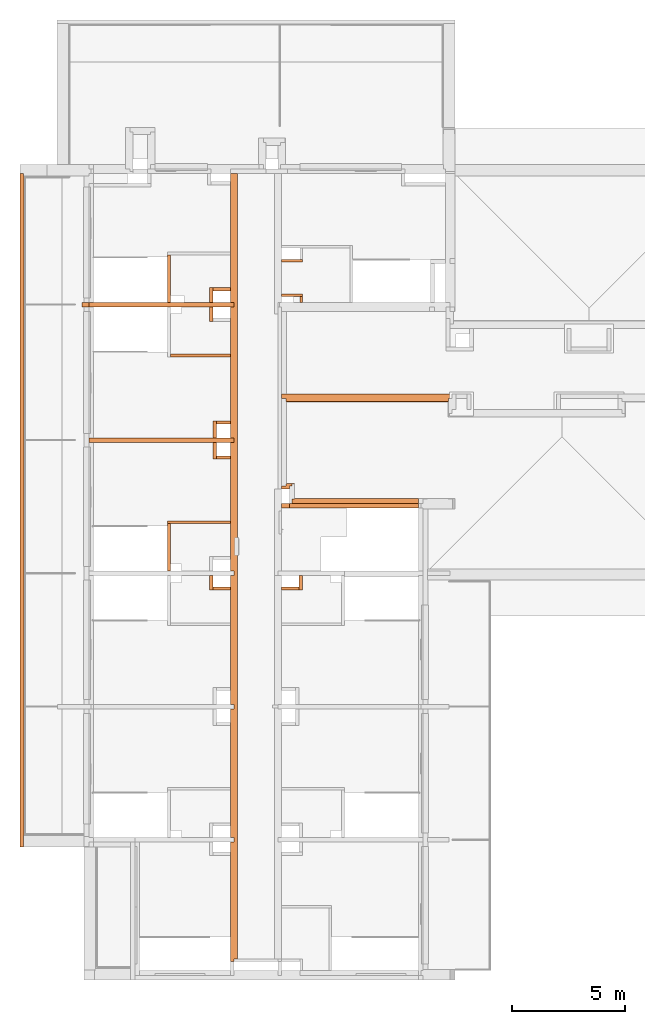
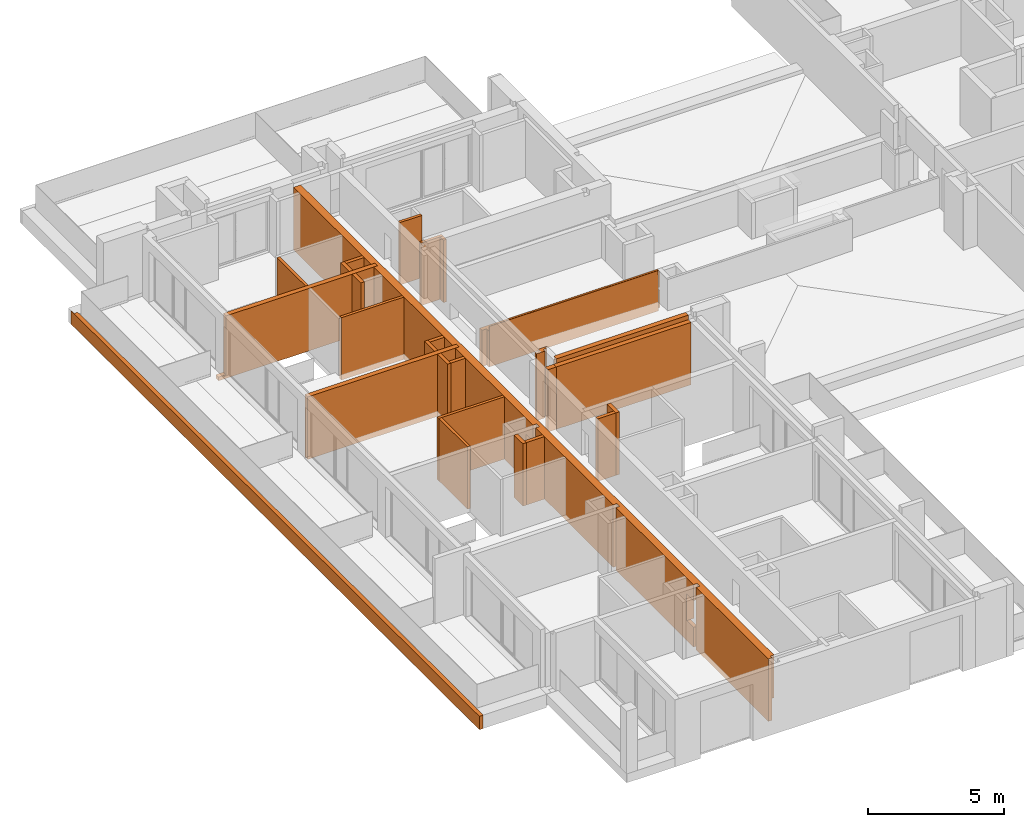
# One storey, part 17 of 30: 26 proxies, 3 openings.
"""IFC2X3 building model written with IfcOpenShell, lengths in millimetres."""

from ifc_helpers import new_model, entity, si_unit, converted_unit, derived_unit, money_unit, direction, frame, origin_with_axes, origin_2d_with_axis, place, context, subcontext, project, spatial, rectangle, extrude, faceted_brep, material, material_list, type_object, element, save


model = new_model("IFC2X3")

# Units and contexts
model_context = context("Model", 3, precision=0.01, world=origin_with_axes(), true_north=direction((0.34421633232, 0.938890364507)))
body_context = subcontext(model_context, "Body", "Model", "MODEL_VIEW")
ifc_project = project(units=[si_unit("LENGTHUNIT", "METRE", prefix="MILLI"), si_unit("AREAUNIT", "SQUARE_METRE"), si_unit("VOLUMEUNIT", "CUBIC_METRE"), converted_unit("PLANEANGLEUNIT", "DEGREE", entity("IfcPlaneAngleMeasure", 0.0174532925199), si_unit("PLANEANGLEUNIT", "RADIAN"), dimensions=[0, 0, 0, 0, 0, 0, 0]), si_unit("SOLIDANGLEUNIT", "STERADIAN"), money_unit("USD"), converted_unit("TIMEUNIT", "Year", entity("IfcTimeMeasure", 31556926.0), si_unit("TIMEUNIT", "SECOND"), dimensions=[0, 0, 1, 0, 0, 0, 0]), si_unit("MASSUNIT", "GRAM", prefix="KILO"), si_unit("THERMODYNAMICTEMPERATUREUNIT", "DEGREE_CELSIUS"), si_unit("LUMINOUSINTENSITYUNIT", "LUMEN"), si_unit("ENERGYUNIT", "JOULE", prefix="MEGA"), derived_unit("THERMALCONDUCTANCEUNIT", [(si_unit("POWERUNIT", "WATT"), 1), (si_unit("LENGTHUNIT", "METRE"), -1), (si_unit("THERMODYNAMICTEMPERATUREUNIT", "KELVIN"), -1)]), derived_unit("SPECIFICHEATCAPACITYUNIT", [(si_unit("ENERGYUNIT", "JOULE"), 1), (si_unit("MASSUNIT", "GRAM", prefix="KILO"), -1), (si_unit("THERMODYNAMICTEMPERATUREUNIT", "KELVIN"), -1)]), derived_unit("MASSDENSITYUNIT", [(si_unit("MASSUNIT", "GRAM", prefix="KILO"), 1), (si_unit("VOLUMEUNIT", "CUBIC_METRE"), -1)])], contexts=[model_context])

# Site, building, storey
site_placement = place(None, origin_with_axes())
site = spatial("IfcSite", under=ifc_project, at=site_placement, Name="USTRONIE MORSKIE", CompositionType="ELEMENT")
building_placement = place(site_placement, origin_with_axes())
building = spatial("IfcBuilding", under=site, at=building_placement, Name="Budynek", CompositionType="ELEMENT")
storey_placement = place(building_placement, frame((0.0, 0.0, 16000.0), z_axis=(0.0, 0.0, 1.0), x_axis=(1.0, 0.0, 0.0)))
storey = spatial("IfcBuildingStorey", under=building, at=storey_placement, Name="ANTRESOLA - KOND. TECHNICZNA", CompositionType="ELEMENT", Elevation=16000.0)

# Proxies
ifc_material_1 = material(Name="Bloczki silikatowe")
building_element_proxy_type_1 = type_object("IfcBuildingElementProxyType", Name="Bloczki silikatowe 120", PredefinedType="NOTDEFINED")
proxy_1_placement = place(storey_placement, frame((354717.920919, 736541.179047, -159.999998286), z_axis=(0.0, 0.0, 1.0), x_axis=(1.0, 0.0, 0.0)))
element("IfcBuildingElementProxy", 1, at=proxy_1_placement, inside=storey, type_object=building_element_proxy_type_1, material=ifc_material_1, Name="SW-04", context=body_context, shape_type="Brep", body=[
    faceted_brep([(2720.0, 59.9999999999, 0.0), (2720.0, -59.9999999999, 0.0), (60.0, -59.9999999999, 0.0), (60.0, 59.9999999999, 0.0), (2720.0, 59.9999999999, 2800.0), (2720.0, -59.9999999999, 2800.0), (60.0, -59.9999999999, 2800.0), (60.0, 59.9999999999, 2800.0)], [[[0, 1, 2, 3]], [[1, 0, 4, 5]], [[1, 5, 6, 2]], [[7, 3, 2, 6]], [[4, 0, 3, 7]], [[5, 4, 7, 6]]]),
])
proxy_2_placement = place(storey_placement, frame((354717.920919, 729161.219701, -159.999998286), z_axis=(0.0, 0.0, 1.0), x_axis=(1.0, 0.0, 0.0)))
element("IfcBuildingElementProxy", 2, at=proxy_2_placement, inside=storey, type_object=building_element_proxy_type_1, material=ifc_material_1, Name="SW-04", context=body_context, shape_type="Brep", body=[
    faceted_brep([(2720.0, -59.9999999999, 2799.99999829), (2720.0, 59.9999999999, 2799.99999829), (-60.0, 59.9999999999, 2799.99999829), (-60.0, -59.9999999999, 2799.99999829), (2720.0, -59.9999999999, 0.0), (2720.0, 59.9999999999, 0.0), (-60.0, 59.9999999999, 0.0), (-60.0, -59.9999999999, 0.0)], [[[0, 1, 2, 3]], [[1, 0, 4, 5]], [[1, 5, 6, 2]], [[7, 3, 2, 6]], [[4, 0, 3, 7]], [[5, 4, 7, 6]]]),
])
proxy_3_placement = place(storey_placement, frame((354717.920919, 729161.219701, -159.999998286), z_axis=(0.0, 0.0, 1.0), x_axis=(0.0, -1.0, 0.0)))
element("IfcBuildingElementProxy", 3, at=proxy_3_placement, inside=storey, type_object=building_element_proxy_type_1, material=ifc_material_1, Name="SW-04", context=body_context, shape_type="Brep", body=[
    faceted_brep([(59.9999999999, -60.0, 2799.99999829), (2160.02066499, -60.0, 2799.99999829), (2160.02066499, 60.0, 2799.99999829), (59.9999999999, 60.0, 2799.99999829), (59.9999999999, -60.0, 0.0), (2160.02066499, -60.0, -1.7137242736e-06), (2160.02066499, 60.0, -1.7137242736e-06), (59.9999999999, 60.0, 0.0)], [[[0, 1, 2, 3]], [[4, 5, 1, 0]], [[5, 6, 2, 1]], [[3, 2, 6, 7]], [[4, 0, 3, 7]], [[7, 6, 5, 4]]]),
])
proxy_4_placement = place(storey_placement, frame((354717.920919, 741061.218206, -159.999998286), z_axis=(0.0, 0.0, 1.0), x_axis=(0.0, -1.0, 0.0)))
element("IfcBuildingElementProxy", 4, at=proxy_4_placement, inside=storey, type_object=building_element_proxy_type_1, material=ifc_material_1, Name="SW-04", context=body_context, shape_type="Brep", body=[
    faceted_brep([(59.9999999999, -60.0, 2800.0), (2160.01307025, -60.0, 2799.99999829), (2160.01307025, 60.0, 2799.99999829), (59.9999999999, 60.0, 2800.0), (2160.01236159, -60.0, -1.71373315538e-06), (59.9999999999, -60.0, 0.0), (2160.01238911, 60.0, -1.71373315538e-06), (59.9999999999, 60.0, 0.0)], [[[0, 1, 2, 3]], [[4, 1, 0, 5]], [[6, 2, 1, 4]], [[3, 2, 6, 7]], [[5, 0, 3, 7]], [[7, 6, 4, 5]]]),
])
proxy_5_placement = place(storey_placement, frame((360577.922714, 740741.179476, -160.0), z_axis=(0.0, 0.0, 1.0), x_axis=(-1.0, 0.0, 0.0)))
element("IfcBuildingElementProxy", 5, at=proxy_5_placement, inside=storey, type_object=building_element_proxy_type_1, material=ifc_material_1, Name="SW-04", context=body_context, shape_type="Brep", body=[
    faceted_brep([(880.001794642, 59.9999999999, 0.0), (880.001794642, -59.9999999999, 0.0), (-60.0, -59.9999999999, 0.0), (-60.0, 59.9999999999, 0.0), (880.001794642, 59.9999999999, 2800.0), (880.001794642, -59.9999999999, 2800.0), (-60.0, -59.9999999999, 2800.0), (-60.0, 59.9999999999, 2800.0)], [[[0, 1, 2, 3]], [[1, 0, 4, 5]], [[1, 5, 6, 2]], [[7, 3, 2, 6]], [[4, 0, 3, 7]], [[5, 4, 7, 6]]]),
])
proxy_6_placement = place(storey_placement, frame((359617.920919, 739211.199036, -160.0), z_axis=(0.0, 0.0, 1.0), x_axis=(1.0, 0.0, 0.0)))
element("IfcBuildingElementProxy", 6, at=proxy_6_placement, inside=storey, type_object=building_element_proxy_type_1, material=ifc_material_1, Name="Ściana-009", context=body_context, shape_type="Brep", body=[
    faceted_brep([(1020.00179464, -59.9999999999, 2800.0), (1020.00179464, 59.9999999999, 2800.0), (80.0, 59.9999999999, 2800.0), (80.0, -59.9999999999, 2800.0), (1020.00179464, -59.9999999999, 0.0), (1020.00179464, 59.9999999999, 0.0), (80.0, 59.9999999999, 0.0), (80.0, -59.9999999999, 0.0)], [[[0, 1, 2, 3]], [[1, 0, 4, 5]], [[1, 5, 6, 2]], [[7, 3, 2, 6]], [[4, 0, 3, 7]], [[5, 4, 7, 6]]]),
])
proxy_7_placement = place(storey_placement, frame((360577.922714, 739211.199036, -160.0), z_axis=(0.0, 0.0, 1.0), x_axis=(0.0, -1.0, 0.0)))
element("IfcBuildingElementProxy", 7, at=proxy_7_placement, inside=storey, type_object=building_element_proxy_type_1, material=ifc_material_1, Name="Ściana-009", context=body_context, shape_type="Brep", body=[
    faceted_brep([(310.0, -60.0, 2800.0), (310.0, 60.0, 2800.0), (59.9999999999, 60.0, 2800.0), (59.9999999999, -60.0, 2800.0), (310.0, -60.0, 0.0), (310.0, 60.0, 0.0), (59.9999999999, 60.0, 0.0), (59.9999999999, -60.0, 0.0)], [[[0, 1, 2, 3]], [[1, 0, 4, 5]], [[1, 5, 6, 2]], [[7, 3, 2, 6]], [[4, 0, 3, 7]], [[5, 4, 7, 6]]]),
])
ifc_material_2 = material(Name="Beton konstrukcyjny B25")
ifc_material_3 = material(Name="Wełna ELEW")
ifc_material_4 = material(Name="Tynk zewnętrzny")
ifc_material_list_1 = material_list([ifc_material_2, ifc_material_3, ifc_material_4])
building_element_proxy_type_2 = type_object("IfcBuildingElementProxyType", Name="20+20 410", PredefinedType="NOTDEFINED")
proxy_8_placement = place(storey_placement, frame((365867.920919, 729901.199019, -359.999998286), z_axis=(0.0, 0.0, 1.0), x_axis=(-1.0, 0.0, 0.0)))
element("IfcBuildingElementProxy", 8, at=proxy_8_placement, inside=storey, type_object=building_element_proxy_type_2, material=ifc_material_list_1, Name="SZ-01", context=body_context, shape_type="Brep", body=[
    faceted_brep([(5820.00000348, -99.9999999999, 2999.99999829), (100.000014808, -99.9999999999, 2999.99999829), (100.000000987, -99.9999783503, 199.999998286), (5820.00005215, -100.000068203, 199.999998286), (100.000014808, 100.000323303, 2999.99999829), (5820.0, 100.0, 2999.99999829), (100.000000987, 100.0, 199.999998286), (3300.00003427, 100.0, 199.999998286), (5820.0, 100.0, 199.999998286)], [[[0, 1, 2, 3]], [[4, 1, 0, 5]], [[1, 4, 6, 2]], [[7, 8, 3, 2, 6]], [[5, 0, 3, 8]], [[4, 5, 8, 7, 6]]]),
    faceted_brep([(100.000015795, -99.9996536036, 204.999998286), (5700.0, -100.0, 204.999998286), (5700.0, -299.999999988, 204.999998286), (100.000015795, -299.999653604, 204.999998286), (100.000015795, -99.9996536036, 3199.99999829), (5700.0, -100.0, 3199.9999983), (5700.0, -299.999992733, 3199.9999983), (100.000015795, -299.999653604, 3199.99999829)], [[[0, 1, 2, 3]], [[1, 0, 4, 5]], [[2, 1, 5, 6]], [[2, 6, 7, 3]], [[0, 3, 7, 4]], [[7, 6, 5, 4]]]),
    faceted_brep([(100.000015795, -299.999653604, 204.999998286), (5600.0, -300.0, 204.999998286), (5600.0, -309.999999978, 204.999998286), (3300.00003427, -310.0, 204.999998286), (100.000015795, -310.0, 204.999998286), (100.000015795, -299.999653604, 3199.99999829), (5600.0, -300.0, 3199.99999829), (5600.0, -309.999986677, 3199.99999829), (100.000015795, -309.999653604, 3199.99999829)], [[[0, 1, 2, 3, 4]], [[1, 0, 5, 6]], [[2, 1, 6, 7]], [[3, 2, 7, 8, 4]], [[0, 4, 8, 5]], [[8, 7, 6, 5]]]),
])
building_element_proxy_type_3 = type_object("IfcBuildingElementProxyType", Name="Bloczki silikatowe 150", PredefinedType="NOTDEFINED")
proxy_9_placement = place(storey_placement, frame((356592.920018, 726226.191662, -160.0), z_axis=(0.0, 0.0, 1.0), x_axis=(1.0, 0.0, 0.0)))
element("IfcBuildingElementProxy", 9, at=proxy_9_placement, inside=storey, type_object=building_element_proxy_type_3, material=ifc_material_1, Name="SW-03", context=body_context, shape_type="Brep", body=[
    faceted_brep([(845.00090117, -75.0, 2800.0), (845.00090117, 75.0, 2800.0), (75.0, 75.0, 2800.0), (75.0, -75.0, 2800.0), (845.00090117, -75.0, 0.0), (845.00090117, 75.0, 0.0), (75.0, 75.0, 0.0), (75.0, -75.0, 0.0)], [[[0, 1, 2, 3]], [[1, 0, 4, 5]], [[1, 5, 6, 2]], [[7, 3, 2, 6]], [[4, 0, 3, 7]], [[5, 4, 7, 6]]]),
])
proxy_10_placement = place(storey_placement, frame((356817.920919, 732801.199036, -160.0), z_axis=(0.0, 0.0, 1.0), x_axis=(0.0, 1.0, 0.0)))
element("IfcBuildingElementProxy", 10, at=proxy_10_placement, inside=storey, type_object=building_element_proxy_type_3, material=ifc_material_1, Name="SW-03", context=body_context, shape_type="Brep", body=[
    faceted_brep([(850.0, 150.0, 2800.0), (100.0, 150.0, 2800.0), (100.0, 0.0, 2800.0), (850.0, 0.0, 2800.0), (850.0, 150.0, 0.0), (100.0, 150.0, 0.0), (100.0, 0.0, 0.0), (850.0, 0.0, 0.0)], [[[0, 1, 2, 3]], [[4, 5, 1, 0]], [[5, 6, 2, 1]], [[3, 2, 6, 7]], [[0, 3, 7, 4]], [[7, 6, 5, 4]]]),
])
proxy_11_placement = place(storey_placement, frame((356817.920919, 732101.199036, -160.0), z_axis=(0.0, 0.0, 1.0), x_axis=(1.0, 0.0, 0.0)))
element("IfcBuildingElementProxy", 11, at=proxy_11_placement, inside=storey, type_object=building_element_proxy_type_3, material=ifc_material_1, Name="SW-03", context=body_context, shape_type="Brep", body=[
    faceted_brep([(620.0, -150.0, 2800.0), (620.0, 0.0, 2800.0), (0.0, 0.0, 2800.0), (0.0, -150.0, 2800.0), (620.0, -150.0, 0.0), (620.0, 0.0, 0.0), (0.0, 0.0, 0.0), (0.0, -150.0, 0.0)], [[[0, 1, 2, 3]], [[1, 0, 4, 5]], [[1, 5, 6, 2]], [[7, 3, 2, 6]], [[4, 0, 3, 7]], [[5, 4, 7, 6]]]),
])
proxy_12_placement = place(storey_placement, frame((356592.920018, 738801.198639, -160.0), z_axis=(0.0, 0.0, 1.0), x_axis=(0.0, 1.0, 0.0)))
element("IfcBuildingElementProxy", 12, at=proxy_12_placement, inside=storey, type_object=building_element_proxy_type_3, material=ifc_material_1, Name="SW-03", context=body_context, shape_type="Brep", body=[
    faceted_brep([(750.000879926, 75.0, 2800.0), (100.006496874, 75.0, 2800.0), (100.006496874, -75.0, 2800.0), (750.000879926, -75.0, 2800.0), (100.006778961, 75.0000000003, 0.0), (750.000879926, 75.0, 0.0), (100.006744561, -74.9999999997, 0.0), (750.000879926, -75.0, 0.0)], [[[0, 1, 2, 3]], [[4, 1, 0, 5]], [[6, 2, 1, 4]], [[3, 2, 6, 7]], [[0, 3, 7, 5]], [[7, 6, 4, 5]]]),
])
proxy_13_placement = place(storey_placement, frame((356592.920018, 739476.199519, -160.0), z_axis=(0.0, 0.0, 1.0), x_axis=(1.0, 0.0, 0.0)))
element("IfcBuildingElementProxy", 13, at=proxy_13_placement, inside=storey, type_object=building_element_proxy_type_3, material=ifc_material_1, Name="SW-03", context=body_context, shape_type="Brep", body=[
    faceted_brep([(845.00090117, 75.0, 0.0), (845.00090117, -75.0, 0.0), (75.0, -75.0, 0.0), (75.0, 75.0, 0.0), (845.00090117, 75.0, 2800.0), (845.00090117, -75.0, 2800.0), (75.0, -75.0, 2800.0), (75.0, 75.0, 2800.0)], [[[0, 1, 2, 3]], [[1, 0, 4, 5]], [[1, 5, 6, 2]], [[7, 3, 2, 6]], [[4, 0, 3, 7]], [[5, 4, 7, 6]]]),
])
proxy_14_placement = place(storey_placement, frame((356817.920919, 732801.199036, -160.0), z_axis=(0.0, 0.0, 1.0), x_axis=(0.0, -1.0, 0.0)))
element("IfcBuildingElementProxy", 14, at=proxy_14_placement, inside=storey, type_object=building_element_proxy_type_3, material=ifc_material_1, Name="SW-03", context=body_context, shape_type="Brep", body=[
    faceted_brep([(850.0, -150.0, 2800.0), (850.0, 0.0, 2800.0), (100.0, 0.0, 2800.0), (100.0, -150.0, 2800.0), (850.0, -150.0, 0.0), (850.0, 0.0, 0.0), (100.0, 0.0, 0.0), (100.0, -150.0, 0.0)], [[[0, 1, 2, 3]], [[1, 0, 4, 5]], [[1, 5, 6, 2]], [[7, 3, 2, 6]], [[4, 0, 3, 7]], [[5, 4, 7, 6]]]),
])
proxy_15_placement = place(storey_placement, frame((356592.920018, 738801.198641, -160.0), z_axis=(0.0, 0.0, 1.0), x_axis=(0.0, -1.0, 0.0)))
element("IfcBuildingElementProxy", 15, at=proxy_15_placement, inside=storey, type_object=building_element_proxy_type_3, material=ifc_material_1, Name="SW-03", context=body_context, shape_type="Brep", body=[
    faceted_brep([(99.9935054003, 75.0, 0.0), (99.9935054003, 75.0, 2800.0), (750.000879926, 75.0, 2800.0), (750.000879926, 75.0, 0.0), (99.9935054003, -75.0, 0.0), (99.9935054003, -75.0, 2800.0), (750.000879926, -75.0, 2800.0), (750.000879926, -75.0, 0.0)], [[[0, 1, 2, 3]], [[4, 5, 1, 0]], [[2, 1, 5, 6]], [[7, 3, 2, 6]], [[7, 4, 0, 3]], [[6, 5, 4, 7]]]),
])
proxy_16_placement = place(storey_placement, frame((356817.920919, 733501.199036, -160.0), z_axis=(0.0, 0.0, 1.0), x_axis=(1.0, 0.0, 0.0)))
element("IfcBuildingElementProxy", 16, at=proxy_16_placement, inside=storey, type_object=building_element_proxy_type_3, material=ifc_material_1, Name="SW-03", context=body_context, shape_type="Brep", body=[
    faceted_brep([(620.0, 150.0, 0.0), (620.0, 0.0, 0.0), (0.0, 0.0, 0.0), (0.0, 150.0, 0.0), (620.0, 150.0, 2800.0), (620.0, 0.0, 2800.0), (0.0, 0.0, 2800.0), (0.0, 150.0, 2800.0)], [[[0, 1, 2, 3]], [[1, 0, 4, 5]], [[1, 5, 6, 2]], [[7, 3, 2, 6]], [[4, 0, 3, 7]], [[5, 4, 7, 6]]]),
])
proxy_17_placement = place(storey_placement, frame((360542.92182, 726226.191662, -160.0), z_axis=(0.0, 0.0, 1.0), x_axis=(-1.0, 0.0, 0.0)))
element("IfcBuildingElementProxy", 17, at=proxy_17_placement, inside=storey, type_object=building_element_proxy_type_3, material=ifc_material_1, Name="SW-03", context=body_context, shape_type="Brep", body=[
    faceted_brep([(845.00090117, 75.0, 0.0), (845.00090117, -75.0, 0.0), (75.0, -75.0, 0.0), (75.0, 75.0, 0.0), (845.00090117, 75.0, 2800.0), (845.00090117, -75.0, 2800.0), (75.0, -75.0, 2800.0), (75.0, 75.0, 2800.0)], [[[0, 1, 2, 3]], [[1, 0, 4, 5]], [[1, 5, 6, 2]], [[7, 3, 2, 6]], [[4, 0, 3, 7]], [[5, 4, 7, 6]]]),
])
proxy_18_placement = place(storey_placement, frame((356592.920018, 726901.192542, -160.0), z_axis=(0.0, 0.0, 1.0), x_axis=(0.0, -1.0, 0.0)))
element("IfcBuildingElementProxy", 18, at=proxy_18_placement, inside=storey, type_object=building_element_proxy_type_3, material=ifc_material_1, Name="SW-03", context=body_context, shape_type="Brep", body=[
    faceted_brep([(750.000879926, -75.0, 2800.0), (750.000879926, 75.0, 2800.0), (99.9935054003, 75.0, 2800.0), (99.9935054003, -75.0, 2800.0), (750.000879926, -75.0, 0.0), (750.000879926, 75.0, 0.0), (99.9935054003, 75.0, 0.0), (99.9935054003, -75.0, 0.0)], [[[0, 1, 2, 3]], [[1, 0, 4, 5]], [[1, 5, 6, 2]], [[7, 3, 2, 6]], [[4, 0, 3, 7]], [[5, 4, 7, 6]]]),
])
proxy_19_placement = place(storey_placement, frame((360542.92182, 726901.192542, -160.0), z_axis=(0.0, 0.0, 1.0), x_axis=(0.0, -1.0, 0.0)))
element("IfcBuildingElementProxy", 19, at=proxy_19_placement, inside=storey, type_object=building_element_proxy_type_3, material=ifc_material_1, Name="SW-03", context=body_context, shape_type="Brep", body=[
    faceted_brep([(750.000879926, 75.0, 0.0), (750.000879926, -75.0, 0.0), (99.9935054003, -75.0, 0.0), (99.9935054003, 75.0, 0.0), (750.000879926, 75.0, 2800.0), (750.000879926, -75.0, 2800.0), (99.9935054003, -75.0, 2800.0), (99.9935054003, 75.0, 2800.0)], [[[0, 1, 2, 3]], [[1, 0, 4, 5]], [[1, 5, 6, 2]], [[7, 3, 2, 6]], [[4, 0, 3, 7]], [[5, 4, 7, 6]]]),
])
building_element_proxy_type_4 = type_object("IfcBuildingElementProxyType", Name="Beton konstrukcyjny B25 200", PredefinedType="NOTDEFINED")
proxy_20_placement = place(storey_placement, frame((357517.920919, 738801.205136, -160.0), z_axis=(0.0, 0.0, 1.0), x_axis=(-1.0, 0.0, 0.0)))
element("IfcBuildingElementProxy", 20, at=proxy_20_placement, inside=storey, type_object=building_element_proxy_type_4, material=ifc_material_2, Name="SW-01", context=body_context, shape_type="Brep", body=[
    faceted_brep([(6350.0, -100.0, 2800.0), (6350.0, 100.0, 2800.0), (-80.0, 100.0, 2800.0), (-80.0, -100.0, 2800.0), (6350.0, -100.0, 160.0), (6350.0, 100.0, 160.0), (6660.0, 100.0, 0.0), (-80.0, 100.0, 0.0), (6560.0, 100.0, 160.0), (6660.0, 100.0, 160.0), (-80.0, -100.0, 0.0), (6660.0, -100.0, 0.0), (6660.0, -100.0, 160.0), (6560.0, -100.0, 160.0)], [[[0, 1, 2, 3]], [[4, 5, 1, 0]], [[6, 7, 2, 1, 5, 8, 9]], [[7, 10, 3, 2]], [[4, 0, 3, 10, 11, 12, 13]], [[13, 8, 5, 4]], [[6, 11, 10, 7]], [[12, 9, 8, 13]], [[12, 11, 6, 9]]]),
])
proxy_21_placement = place(storey_placement, frame((351267.920919, 732801.199036, -160.0), z_axis=(0.0, 0.0, 1.0), x_axis=(1.0, 0.0, 0.0)))
element("IfcBuildingElementProxy", 21, at=proxy_21_placement, inside=storey, type_object=building_element_proxy_type_4, material=ifc_material_2, Name="SW-01", context=body_context, shape_type="Brep", body=[
    faceted_brep([(-100.0, 100.0, 2800.0), (-100.0, -100.0, 2800.0), (6330.0, -100.0, 2800.0), (6330.0, 100.0, 2800.0), (-100.0, 100.0, 0.0), (-100.0, -100.0, 0.0), (6330.0, -100.0, 0.0), (6330.0, 100.0, 0.0)], [[[0, 1, 2, 3]], [[0, 4, 5, 1]], [[1, 5, 6, 2]], [[6, 7, 3, 2]], [[4, 0, 3, 7]], [[5, 4, 7, 6]]]),
])
proxy_22_placement = place(storey_placement, frame((360047.920919, 729901.199019, -359.999998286), z_axis=(0.0, 0.0, 1.0), x_axis=(-1.0, 0.0, 0.0)))
element("IfcBuildingElementProxy", 22, at=proxy_22_placement, inside=storey, type_object=building_element_proxy_type_4, material=ifc_material_2, Name="SZ-01", context=body_context, shape_type="Brep", body=[
    faceted_brep([(350.0, -100.000068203, 199.999998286), (350.000051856, -99.9999999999, 2999.99999829), (3.47694140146e-06, -99.9999999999, 2999.99999829), (5.21541210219e-05, -100.000068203, 199.999998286), (350.0, 100.0, 199.999998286), (350.0, 100.0, 2999.99999829), (3.47694140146e-06, 100.0, 2999.99999829), (5.21541210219e-05, 100.0, 199.999998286)], [[[0, 1, 2, 3]], [[4, 5, 1, 0]], [[5, 6, 2, 1]], [[3, 2, 6, 7]], [[4, 0, 3, 7]], [[7, 6, 5, 4]]]),
])

# Proxy, openings
ifc_material_5 = material(Name="Izolacja akustyczna")
ifc_material_list_2 = material_list([ifc_material_5, ifc_material_2])
building_element_proxy_type_5 = type_object("IfcBuildingElementProxyType", Name="16+15 AKU 310", PredefinedType="NOTDEFINED")
proxy_23_placement = place(storey_placement, frame((357517.920919, 744701.199036, -160.0), z_axis=(0.0, 0.0, 1.0), x_axis=(0.0, -1.0, 0.0)))
proxy_23 = element("IfcBuildingElementProxy", 23, at=proxy_23_placement, inside=storey, type_object=building_element_proxy_type_5, material=ifc_material_list_2, Name="Œciana-006", context=body_context, shape_type="Brep", body=[
    faceted_brep([(34880.0, 230.0, 2800.0), (34880.0, 230.0, 880.0), (100.0, 230.0, 880.0), (100.0, 230.0, 2800.0), (34880.0, 80.0, 2800.0), (34880.0, 79.9999999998, 880.0), (100.0, 80.0, 880.0), (100.0, 80.0, 2800.0)], [[[0, 1, 2, 3]], [[4, 5, 1, 0]], [[5, 6, 2, 1]], [[3, 2, 6, 7]], [[3, 7, 4, 0]], [[7, 6, 5, 4]]]),
    faceted_brep([(35000.0, -80.0, 2800.0), (35000.0, 80.0, 2800.0), (29700.0, 80.0, 2800.0), (29700.0, -80.0, 2800.0), (35000.0, -80.0, 0.0), (35000.0, 80.0, 0.0), (29700.0, 80.0, 0.0), (29700.0, -80.0, 0.0)], [[[0, 1, 2, 3]], [[0, 4, 5, 1]], [[1, 5, 6, 2]], [[6, 7, 3, 2]], [[4, 0, 3, 7]], [[5, 4, 7, 6]]]),
    faceted_brep([(29500.0, 80.0, 0.0), (23799.9851874, 80.0, 0.0), (23799.9851874, 80.0, 2800.0), (29500.0, 80.0, 2800.0), (29500.0, -80.0, 0.0), (23799.9853347, -80.0, 0.0), (23799.9853347, -80.0, 2800.0), (29500.0, -80.0, 2800.0)], [[[0, 1, 2, 3]], [[0, 4, 5, 1]], [[1, 5, 6, 2]], [[7, 3, 2, 6]], [[7, 4, 0, 3]], [[4, 7, 6, 5]]]),
    faceted_brep([(11800.0, 80.0, 0.0), (5999.99390061, 80.0, 0.0), (5999.99390061, 80.0, 2800.0), (11800.0, 80.0, 2800.0), (11800.0, -80.0, 0.0), (5999.99390061, -80.0, 0.0), (5999.99390061, -80.0, 2800.0), (11800.0, -80.0, 2800.0)], [[[0, 1, 2, 3]], [[0, 4, 5, 1]], [[1, 5, 6, 2]], [[7, 3, 2, 6]], [[7, 4, 0, 3]], [[4, 7, 6, 5]]]),
    faceted_brep([(17700.0, -80.0, 2800.0), (17700.0, 80.0, 2800.0), (12000.0, 80.0, 2800.0), (12000.0, -80.0, 2800.0), (17700.0, -80.0, 0.0), (17700.0, 80.0, 0.0), (12000.0, 80.0, 0.0), (12000.0, -80.0, 0.0)], [[[0, 1, 2, 3]], [[0, 4, 5, 1]], [[1, 5, 6, 2]], [[6, 7, 3, 2]], [[4, 0, 3, 7]], [[5, 4, 7, 6]]]),
    faceted_brep([(100.0, 80.0, 2800.0), (100.0, -80.0, 2800.0), (5799.99390061, -80.0, 2800.0), (5799.99390061, 80.0, 2800.0), (100.0, 80.0, 0.0), (100.0, -80.0, 0.0), (5799.99390061, -80.0, 0.0), (5799.99390061, 80.0, 0.0)], [[[0, 1, 2, 3]], [[4, 5, 1, 0]], [[5, 6, 2, 1]], [[6, 7, 3, 2]], [[4, 0, 3, 7]], [[5, 4, 7, 6]]]),
    faceted_brep([(17900.0, 80.0, 2800.0), (17900.0, -80.0, 2800.0), (23599.9853347, -80.0, 2800.0), (23599.9851874, 80.0, 2800.0), (17900.0, 80.0, 0.0), (17900.0, -80.0, 0.0), (23599.9853347, -80.0, 0.0), (23599.9851874, 80.0, 0.0)], [[[0, 1, 2, 3]], [[4, 5, 1, 0]], [[5, 6, 2, 1]], [[6, 7, 3, 2]], [[4, 0, 3, 7]], [[5, 4, 7, 6]]]),
])
opening_1_placement = place(proxy_23_placement, frame((5549.99951756, 0.0, 880.0), z_axis=(0.0, 0.0, 1.0), x_axis=(1.0, 0.0, 0.0)))
element("IfcOpeningElement", 24, at=opening_1_placement, cuts=proxy_23, Name="R.01", context=body_context, shape_type="SweptSolid", body=[
    extrude(rectangle(XDim=500.0, YDim=1200.0, at=origin_2d_with_axis()), frame((0.0, 80.0, 600.0), z_axis=(0.0, -1.0, 0.0), x_axis=(1.0, 0.0, 0.0)), (0.0, 0.0, -1.0), 460.0),
    extrude(rectangle(XDim=500.0, YDim=1200.0, at=origin_2d_with_axis()), frame((0.0, 80.0, 600.0), z_axis=(0.0, 1.0, 0.0), x_axis=(1.0, 0.0, 0.0)), (0.0, 0.0, -1.0), 460.0),
])
opening_2_placement = place(proxy_23_placement, frame((17449.9980222, 0.0, 880.0), z_axis=(0.0, 0.0, 1.0), x_axis=(1.0, 0.0, 0.0)))
element("IfcOpeningElement", 25, at=opening_2_placement, cuts=proxy_23, Name="R.01", context=body_context, shape_type="SweptSolid", body=[
    extrude(rectangle(XDim=500.0, YDim=1200.0, at=origin_2d_with_axis()), frame((0.0, 80.0, 600.0), z_axis=(0.0, -1.0, 0.0), x_axis=(1.0, 0.0, 0.0)), (0.0, 0.0, -1.0), 460.0),
    extrude(rectangle(XDim=500.0, YDim=1200.0, at=origin_2d_with_axis()), frame((0.0, 80.0, 600.0), z_axis=(0.0, 1.0, 0.0), x_axis=(1.0, 0.0, 0.0)), (0.0, 0.0, -1.0), 460.0),
])
opening_3_placement = place(proxy_23_placement, frame((29250.0000587, 0.0, 880.0), z_axis=(0.0, 0.0, 1.0), x_axis=(1.0, 0.0, 0.0)))
element("IfcOpeningElement", 26, at=opening_3_placement, cuts=proxy_23, Name="R.01", context=body_context, shape_type="SweptSolid", body=[
    extrude(rectangle(XDim=500.0, YDim=1200.0, at=origin_2d_with_axis()), frame((0.0, 80.0, 600.0), z_axis=(0.0, -1.0, 0.0), x_axis=(1.0, 0.0, 0.0)), (0.0, 0.0, -1.0), 460.0),
    extrude(rectangle(XDim=500.0, YDim=1200.0, at=origin_2d_with_axis()), frame((0.0, 80.0, 600.0), z_axis=(0.0, 1.0, 0.0), x_axis=(1.0, 0.0, 0.0)), (0.0, 0.0, -1.0), 460.0),
])

# Proxies
ifc_material_list_3 = material_list([ifc_material_1, ifc_material_3, ifc_material_4])
building_element_proxy_type_6 = type_object("IfcBuildingElementProxyType", Name="18+15 AKU 340", PredefinedType="NOTDEFINED")
proxy_24_placement = place(storey_placement, frame((359617.920919, 734741.203767, -160.0), z_axis=(0.0, 0.0, 1.0), x_axis=(1.0, 0.0, 0.0)))
element("IfcBuildingElementProxy", 27, at=proxy_24_placement, inside=storey, type_object=building_element_proxy_type_6, material=ifc_material_list_3, Name="Œciana-006", context=body_context, shape_type="Brep", body=[
    faceted_brep([(79.9999481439, 90.0, 1620.00000171), (7619.97661711, 90.0, 1620.00000171), (7619.97661711, 90.0, 920.000001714), (7519.97736611, 90.0, 920.000001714), (7519.97736611, 90.0, 800.000001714), (7619.97661711, 90.0, 800.000001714), (7619.97661711, 90.0, 0.0), (80.0, 90.0, 0.0), (7619.97843612, -90.0, 1620.00000171), (79.9999481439, -90.0, 1620.00000171), (7619.97843612, -90.0, 920.000001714), (7519.97843612, -90.0, 920.000001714), (7519.97843612, -90.0, 800.000001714), (7619.97843612, -90.0, 800.000001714), (7619.97843612, -90.0, 0.0), (80.0, -90.0, 0.0)], [[[0, 1, 2, 3, 4, 5, 6, 7]], [[8, 1, 0, 9]], [[1, 8, 10, 2]], [[3, 2, 10, 11]], [[4, 3, 11, 12]], [[13, 5, 4, 12]], [[5, 13, 14, 6]], [[6, 14, 15, 7]], [[9, 0, 7, 15]], [[8, 9, 15, 14, 13, 12, 11, 10]]]),
    faceted_brep([(280.0, -90.0, 1620.00000171), (7469.97843611, -90.0, 1620.00000171), (7469.97843611, -90.0, 5.0), (280.0, -90.0, 5.0), (7469.97995196, -240.0, 1620.00000171), (280.0, -240.0, 1620.00000171), (7469.97995196, -240.0, 5.0), (280.0, -240.0, 5.0)], [[[0, 1, 2, 3]], [[4, 1, 0, 5]], [[1, 4, 6, 2]], [[3, 2, 6, 7]], [[5, 0, 3, 7]], [[4, 5, 7, 6]]]),
    faceted_brep([(7459.98005301, -250.0, 5.0), (7459.97995196, -240.0, 5.0), (7459.97995196, -240.0, 1819.99999023), (7459.98005301, -250.0, 1819.99999023), (290.0, -240.0, 5.0), (290.0, -250.0, 5.0), (290.0, -240.0, 1819.99999023), (290.0, -250.0, 1819.99999023)], [[[0, 1, 2, 3]], [[4, 1, 0, 5]], [[1, 4, 6, 2]], [[3, 2, 6, 7]], [[5, 0, 3, 7]], [[4, 5, 7, 6]]]),
])
ifc_material_6 = material(Name="Tynk wewnętrzny")
ifc_material_list_4 = material_list([ifc_material_6, ifc_material_2, ifc_material_6])
building_element_proxy_type_7 = type_object("IfcBuildingElementProxyType", Name="15+2xTYNK 170", PredefinedType="NOTDEFINED")
proxy_25_placement = place(storey_placement, frame((348202.921101, 744701.199036, -360.000002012), z_axis=(0.0, 0.0, 1.0), x_axis=(0.0, -1.0, 0.0)))
element("IfcBuildingElementProxy", 28, at=proxy_25_placement, inside=storey, type_object=building_element_proxy_type_7, material=ifc_material_list_4, Name="Œciana-006", context=body_context, shape_type="Brep", body=[
    faceted_brep([(29410.0, 85.0, 439.999999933), (210.0, 85.0, 439.999999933), (210.0, 85.0, 600.000002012), (29410.0, 85.0, 600.000002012), (210.0, 75.0, 439.999999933), (29410.0, 75.0, 439.999999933), (210.0, 75.0, 600.000002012), (29410.0, 75.0, 600.000002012)], [[[0, 1, 2, 3]], [[4, 1, 0, 5]], [[1, 4, 6, 2]], [[7, 3, 2, 6]], [[5, 0, 3, 7]], [[4, 5, 7, 6]]]),
    faceted_brep([(29500.0, 75.0, -6.70805633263e-08), (29500.0, 75.0, 199.999999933), (100.0, 75.0, 199.999999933), (100.0, 75.0, 600.000002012), (29910.0, 75.0, 600.000002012), (29910.0, 75.0, 0.0), (29500.0, -75.0, -6.70805633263e-08), (29500.0, -75.0, 199.999999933), (100.0, -75.0, 199.999999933), (99.9999999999, -75.0, 600.000002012), (29910.0, -75.0, 600.000002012), (29910.0, -75.0, 0.0)], [[[0, 1, 2, 3, 4, 5]], [[1, 0, 6, 7]], [[8, 2, 1, 7]], [[2, 8, 9, 3]], [[10, 4, 3, 9]], [[11, 5, 4, 10]], [[6, 0, 5, 11]], [[7, 6, 11, 10, 9, 8]]]),
    faceted_brep([(29910.0, -85.0, 0.0), (-100.0, -85.0, 0.0), (-100.0, -75.0, 0.0), (29910.0, -75.0, 0.0), (29910.0, -85.0, 600.000002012), (-100.0, -85.0, 600.000002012), (-100.0, -75.0, 600.000002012), (29910.0, -75.0, 600.000002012)], [[[0, 1, 2, 3]], [[4, 5, 1, 0]], [[2, 1, 5, 6]], [[3, 2, 6, 7]], [[3, 7, 4, 0]], [[7, 6, 5, 4]]]),
])
building_element_proxy_type_8 = type_object("IfcBuildingElementProxyType", Name="12+10 kominy 230", PredefinedType="NOTDEFINED")
proxy_26_placement = place(storey_placement, frame((360047.920919, 730641.199036, -159.999998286), z_axis=(0.0, 0.0, 1.0), x_axis=(-1.0, 0.0, 0.0)))
element("IfcBuildingElementProxy", 29, at=proxy_26_placement, inside=storey, type_object=building_element_proxy_type_8, material=ifc_material_list_3, Name="Œciana-006", context=body_context, shape_type="Brep", body=[
    faceted_brep([(0.0, -120.0, -6.73249900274e-07), (350.0, -120.0, -1.71372960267e-06), (350.0, -120.0, 2999.99999829), (0.0, -120.0, 2999.99999829), (0.0, 0.0, -6.73249900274e-07), (350.0, 0.0, -1.71372960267e-06), (350.0, 0.0, 2999.99999829), (0.0, 0.0, 2999.99999829)], [[[0, 1, 2, 3]], [[4, 5, 1, 0]], [[5, 6, 2, 1]], [[3, 2, 6, 7]], [[4, 0, 3, 7]], [[7, 6, 5, 4]]]),
    faceted_brep([(-120.0, -120.0, 4.99999828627), (-120.0, -220.0, 4.99999828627), (-120.0, -220.0, 2999.99999829), (-120.0, -120.0, 2999.99999829), (150.0, -220.0, 4.99999828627), (150.0, -120.0, 4.99999828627), (150.0, -220.0, 2999.99999829), (150.0, -120.0, 2999.99999829)], [[[0, 1, 2, 3]], [[4, 1, 0, 5]], [[1, 4, 6, 2]], [[2, 6, 7, 3]], [[5, 0, 3, 7]], [[4, 5, 7, 6]]]),
    faceted_brep([(-220.0, -220.0, 4.99999828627), (-220.0, -230.0, 4.99999828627), (-220.0, -230.0, 2999.99999829), (-220.0, -220.0, 2999.99999829), (140.0, -230.0, 4.99999828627), (140.0, -220.0, 4.99999828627), (140.0, -230.0, 2999.99999829), (140.0, -220.0, 2999.99999829)], [[[0, 1, 2, 3]], [[4, 1, 0, 5]], [[1, 4, 6, 2]], [[2, 6, 7, 3]], [[5, 0, 3, 7]], [[4, 5, 7, 6]]]),
])

save(model, "model.ifc")
